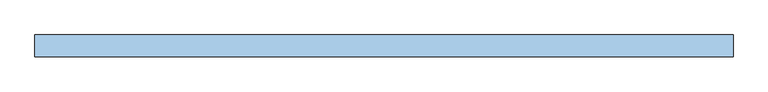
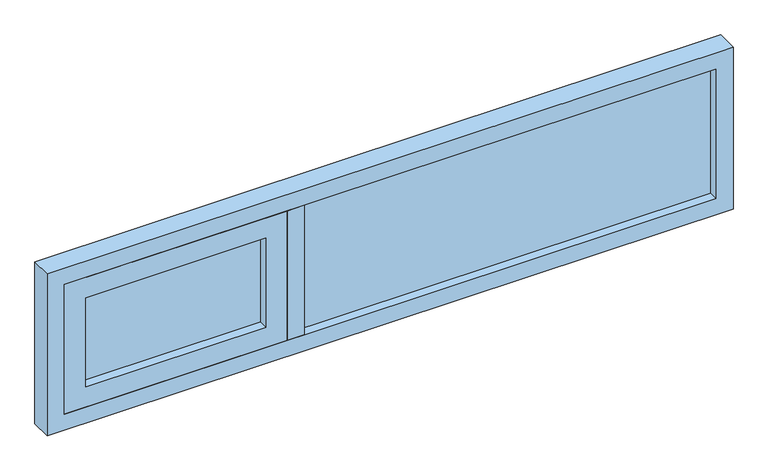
"""IFC4 building model written with IfcOpenShell, lengths in millimetres: window geometry, VENT_ALUM_PROY_LATERAL : VD-11/ PROYECC LATERAL COCINA 1.6 X 0.4."""

from ifc_helpers import new_model, si_unit, frame, origin, place, context, project, spatial, polyline, outline, extrude, source, transform, mapped, element, save


def window_75af6df1(model_context):
    return source(origin(), model_context, "Body", "SweptSolid", [
        extrude(outline(polyline([(1092.5, 3.0), (1092.5, -3.0), (132.5, -3.0), (132.5, 3.0), (1092.5, 3.0)])), frame((0.0, 0.0, 2040.0), z_axis=(0.0, 0.0, 1.0), x_axis=(1.0, 0.0, 0.0)), (0.0, 0.0, 1.0), 320.0),
        extrude(outline(polyline([(2400.0, -467.5), (2000.0, -467.5), (2000.0, 1132.5), (2400.0, 1132.5), (2400.0, -467.5)]), holes=[polyline([(2040.0, -427.5), (2360.0, -427.5), (2360.0, 1092.5), (2040.0, 1092.5), (2040.0, -427.5)])]), frame((0.0, -25.0, 0.0), z_axis=(0.0, 1.0, 0.0), x_axis=(0.0, 0.0, 1.0)), (0.0, 0.0, 1.0), 50.0),
        extrude(outline(polyline([(92.5, -25.0), (92.5, 25.0), (132.5, 25.0), (132.5, -25.0), (92.5, -25.0)])), frame((0.0, 0.0, 2040.0), z_axis=(0.0, 0.0, 1.0), x_axis=(1.0, 0.0, 0.0)), (0.0, 0.0, 1.0), 320.0),
        extrude(outline(polyline([(42.5, 3.0), (42.5, -3.0), (-377.5, -3.0), (-377.5, 3.0), (42.5, 3.0)])), frame((0.0, 0.0, 2080.0), z_axis=(0.0, 0.0, 1.0), x_axis=(1.0, 0.0, 0.0)), (0.0, 0.0, 1.0), 230.0),
        extrude(outline(polyline([(2360.0, -427.5), (2040.0, -427.5), (2040.0, 92.5), (2360.0, 92.5), (2360.0, -427.5)]), holes=[polyline([(2090.0, -377.5), (2310.0, -377.5), (2310.0, 42.5), (2090.0, 42.5), (2090.0, -377.5)])]), frame((0.0, -25.0, 0.0), z_axis=(0.0, 1.0, 0.0), x_axis=(0.0, 0.0, 1.0)), (0.0, 0.0, 1.0), 50.0),
    ])


if __name__ == "__main__":
    model = new_model("IFC4")
    model_context = context("Model", 3, world=origin())
    ifc_project = project(units=[si_unit("LENGTHUNIT", "METRE", prefix="MILLI")], contexts=[model_context])
    site = spatial("IfcSite", under=ifc_project)
    building = spatial("IfcBuilding", under=site)
    placement = place(None, origin())
    window_shape = window_75af6df1(model_context)
    element("IfcWindow", 1, ObjectType="VENT_ALUM_PROY_LATERAL : VD-11/ PROYECC LATERAL COCINA 1.6 X 0.4", at=placement, inside=building, context=model_context, shape_type="MappedRepresentation", body=[
        mapped(window_shape, transform((0.0, 0.0, 0.0), x_axis=(1.0, 0.0, 0.0), y_axis=(0.0, 1.0, 0.0), z_axis=(0.0, 0.0, 1.0))),
    ])
    save(model, "model.ifc")
